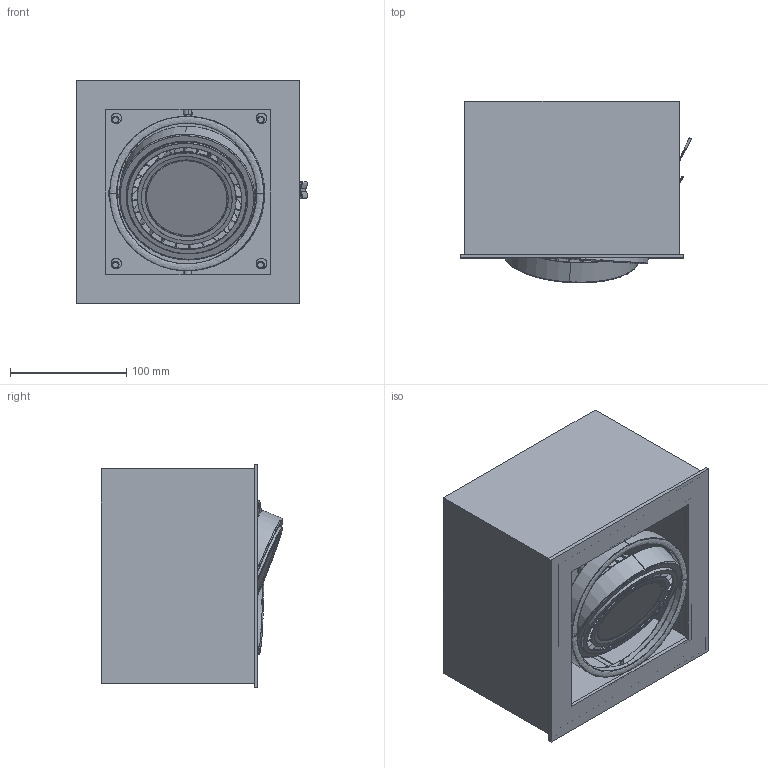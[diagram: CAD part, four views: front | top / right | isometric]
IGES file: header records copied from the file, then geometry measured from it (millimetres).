
Start section: SolidWorks IGES file using analytic representation for surfaces
Global section: file name: E:\3D lampy\Box\Box_9497,9495,9496_version close.IGS; native system: SolidWorks 2017; preprocessor: SolidWorks 2017; author: joanna.pastusinska; date: 180622.150859; units: millimetre
Bounding box: 198.8 x 156.5 x 192 mm (x, y, z)
Surface area: 657021 mm2 (no closed solid volume)
Topology: 0 solids, 0 shells, 1414 faces, 16006 edges, 15983 vertices
Faces by surface type: bspline 879, revolution 535
